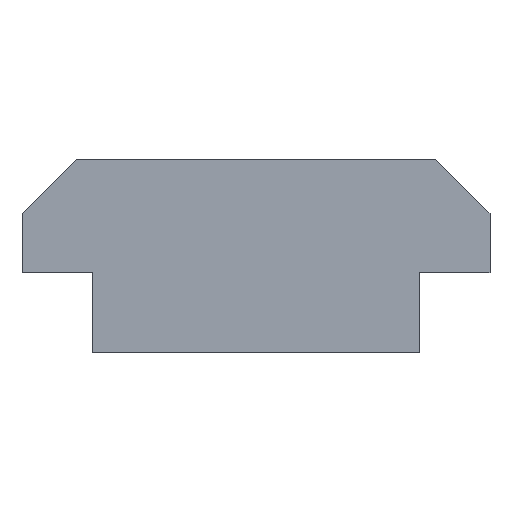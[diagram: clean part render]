
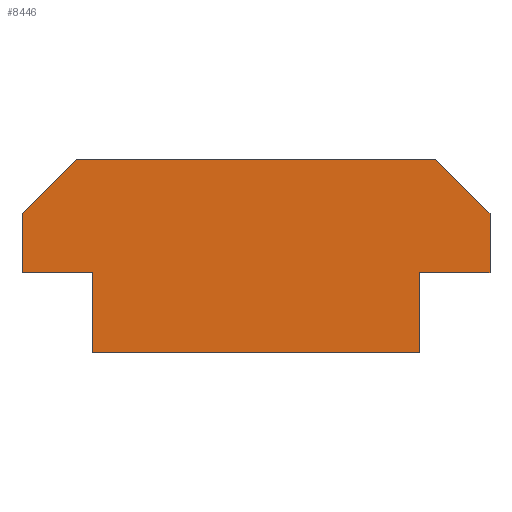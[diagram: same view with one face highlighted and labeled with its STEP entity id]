
A CAD part, front view. The second image highlights one B-rep face of the part: STEP entity #8446.
In plain terms, the highlighted planar face has unit normal (0, -1, 0).
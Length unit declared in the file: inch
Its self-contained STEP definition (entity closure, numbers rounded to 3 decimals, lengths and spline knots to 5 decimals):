
#133 = VECTOR ( 'NONE', #2322, 39.37008 ) ;
#191 = CARTESIAN_POINT ( 'NONE',  ( -0.175, 1., -0.25553 ) ) ;
#848 = CARTESIAN_POINT ( 'NONE',  ( 0.12257, 1., -0.36 ) ) ;
#980 = VECTOR ( 'NONE', #9592, 39.37008 ) ;
#1237 = DIRECTION ( 'NONE',  ( 1., 0., 0. ) ) ;
#1242 = EDGE_CURVE ( 'NONE', #9472, #7313, #5116, .T. ) ;
#1245 = DIRECTION ( 'NONE',  ( -1., 0., 0. ) ) ;
#1436 = LINE ( 'NONE', #3097, #10017 ) ;
#1824 = CARTESIAN_POINT ( 'NONE',  ( -0.12257, 1., -0.36 ) ) ;
#1968 = EDGE_LOOP ( 'NONE', ( #6324, #5265, #7437, #7850, #4602, #6776, #4097, #4140, #10286, #7957 ) ) ;
#2144 = EDGE_CURVE ( 'NONE', #3314, #4261, #6235, .T. ) ;
#2163 = CARTESIAN_POINT ( 'NONE',  ( 0.13447, 1., -0.215 ) ) ;
#2309 = VERTEX_POINT ( 'NONE', #1824 ) ;
#2320 = LINE ( 'NONE', #7176, #6809 ) ;
#2322 = DIRECTION ( 'NONE',  ( 0., 0., -1. ) ) ;
#2358 = VECTOR ( 'NONE', #1245, 39.37008 ) ;
#2387 = CARTESIAN_POINT ( 'NONE',  ( -0.175, 1., -0.3 ) ) ;
#2572 = VECTOR ( 'NONE', #8754, 39.37008 ) ;
#2744 = CARTESIAN_POINT ( 'NONE',  ( 0.175, 1., -0.25553 ) ) ;
#3097 = CARTESIAN_POINT ( 'NONE',  ( 0., 1., -0.36 ) ) ;
#3187 = LINE ( 'NONE', #8787, #2572 ) ;
#3197 = VERTEX_POINT ( 'NONE', #6155 ) ;
#3266 = VERTEX_POINT ( 'NONE', #4907 ) ;
#3314 = VERTEX_POINT ( 'NONE', #2387 ) ;
#3354 = VERTEX_POINT ( 'NONE', #848 ) ;
#3629 = DIRECTION ( 'NONE',  ( 0., 0., 1. ) ) ;
#3684 = CARTESIAN_POINT ( 'NONE',  ( 0., 1., 0. ) ) ;
#3902 = EDGE_CURVE ( 'NONE', #9697, #3197, #6302, .T. ) ;
#4097 = ORIENTED_EDGE ( 'NONE', *, *, #5655, .T. ) ;
#4140 = ORIENTED_EDGE ( 'NONE', *, *, #7509, .F. ) ;
#4261 = VERTEX_POINT ( 'NONE', #7330 ) ;
#4447 = VERTEX_POINT ( 'NONE', #191 ) ;
#4596 = EDGE_CURVE ( 'NONE', #4447, #3314, #4865, .T. ) ;
#4602 = ORIENTED_EDGE ( 'NONE', *, *, #2144, .T. ) ;
#4865 = LINE ( 'NONE', #7866, #133 ) ;
#4907 = CARTESIAN_POINT ( 'NONE',  ( 0.12257, 1., -0.3 ) ) ;
#5074 = AXIS2_PLACEMENT_3D ( 'NONE', #3684, #6808, #3629 ) ;
#5116 = LINE ( 'NONE', #6825, #2358 ) ;
#5265 = ORIENTED_EDGE ( 'NONE', *, *, #1242, .T. ) ;
#5321 = FACE_OUTER_BOUND ( 'NONE', #1968, .T. ) ;
#5416 = CARTESIAN_POINT ( 'NONE',  ( 0.04027, 1., -0.04027 ) ) ;
#5463 = DIRECTION ( 'NONE',  ( 1., 0., 0. ) ) ;
#5655 = EDGE_CURVE ( 'NONE', #2309, #3354, #1436, .T. ) ;
#6109 = CARTESIAN_POINT ( 'NONE',  ( -0.12257, 1., 0. ) ) ;
#6155 = CARTESIAN_POINT ( 'NONE',  ( 0.175, 1., -0.3 ) ) ;
#6158 = VECTOR ( 'NONE', #6201, 39.37008 ) ;
#6201 = DIRECTION ( 'NONE',  ( 0.707, 0., 0.707 ) ) ;
#6235 = LINE ( 'NONE', #9134, #6498 ) ;
#6302 = LINE ( 'NONE', #6932, #6560 ) ;
#6324 = ORIENTED_EDGE ( 'NONE', *, *, #7470, .T. ) ;
#6355 = CARTESIAN_POINT ( 'NONE',  ( 0.12257, 1., 0. ) ) ;
#6498 = VECTOR ( 'NONE', #1237, 39.37008 ) ;
#6560 = VECTOR ( 'NONE', #10165, 39.37008 ) ;
#6776 = ORIENTED_EDGE ( 'NONE', *, *, #7046, .T. ) ;
#6808 = DIRECTION ( 'NONE',  ( 0., 1., 0. ) ) ;
#6809 = VECTOR ( 'NONE', #7141, 39.37008 ) ;
#6825 = CARTESIAN_POINT ( 'NONE',  ( 0., 1., -0.215 ) ) ;
#6932 = CARTESIAN_POINT ( 'NONE',  ( 0.175, 1., 0. ) ) ;
#7046 = EDGE_CURVE ( 'NONE', #4261, #2309, #7476, .T. ) ;
#7079 = VECTOR ( 'NONE', #10170, 39.37008 ) ;
#7141 = DIRECTION ( 'NONE',  ( -0.707, 0., 0.707 ) ) ;
#7176 = CARTESIAN_POINT ( 'NONE',  ( -0.04027, 1., -0.04027 ) ) ;
#7313 = VERTEX_POINT ( 'NONE', #8094 ) ;
#7330 = CARTESIAN_POINT ( 'NONE',  ( -0.12257, 1., -0.3 ) ) ;
#7437 = ORIENTED_EDGE ( 'NONE', *, *, #9548, .F. ) ;
#7470 = EDGE_CURVE ( 'NONE', #9697, #9472, #2320, .T. ) ;
#7476 = LINE ( 'NONE', #6109, #7079 ) ;
#7509 = EDGE_CURVE ( 'NONE', #3266, #3354, #8434, .T. ) ;
#7595 = PLANE ( 'NONE',  #5074 ) ;
#7850 = ORIENTED_EDGE ( 'NONE', *, *, #4596, .T. ) ;
#7866 = CARTESIAN_POINT ( 'NONE',  ( -0.175, 1., 0. ) ) ;
#7957 = ORIENTED_EDGE ( 'NONE', *, *, #3902, .F. ) ;
#8094 = CARTESIAN_POINT ( 'NONE',  ( -0.13447, 1., -0.215 ) ) ;
#8434 = LINE ( 'NONE', #6355, #980 ) ;
#8446 = ADVANCED_FACE ( 'NONE', ( #5321 ), #7595, .F. ) ;
#8528 = LINE ( 'NONE', #5416, #6158 ) ;
#8754 = DIRECTION ( 'NONE',  ( -1., 0., 0. ) ) ;
#8787 = CARTESIAN_POINT ( 'NONE',  ( 0., 1., -0.3 ) ) ;
#9134 = CARTESIAN_POINT ( 'NONE',  ( 0., 1., -0.3 ) ) ;
#9472 = VERTEX_POINT ( 'NONE', #2163 ) ;
#9548 = EDGE_CURVE ( 'NONE', #4447, #7313, #8528, .T. ) ;
#9592 = DIRECTION ( 'NONE',  ( 0., 0., -1. ) ) ;
#9697 = VERTEX_POINT ( 'NONE', #2744 ) ;
#10017 = VECTOR ( 'NONE', #5463, 39.37008 ) ;
#10165 = DIRECTION ( 'NONE',  ( 0., 0., -1. ) ) ;
#10170 = DIRECTION ( 'NONE',  ( 0., 0., -1. ) ) ;
#10275 = EDGE_CURVE ( 'NONE', #3197, #3266, #3187, .T. ) ;
#10286 = ORIENTED_EDGE ( 'NONE', *, *, #10275, .F. ) ;
